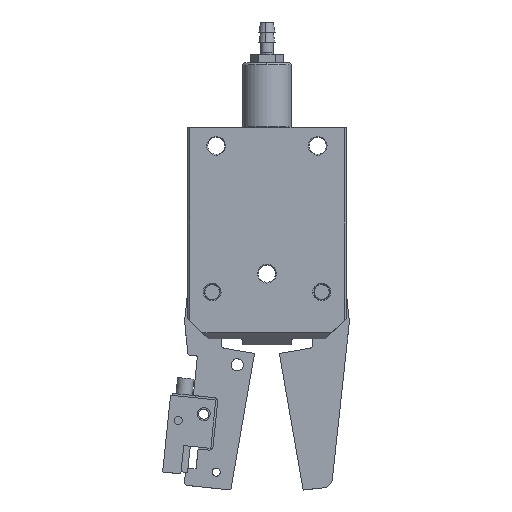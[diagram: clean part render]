
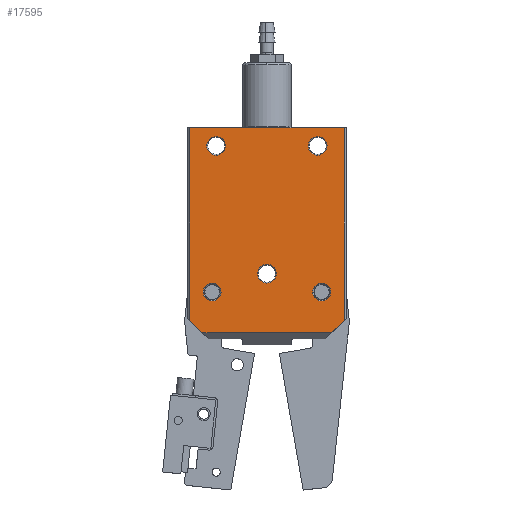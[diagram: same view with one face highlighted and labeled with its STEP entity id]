
A CAD part, top view. The second image highlights one B-rep face of the part: STEP entity #17595.
In plain terms, the highlighted planar face has unit normal (0, 0, 1).
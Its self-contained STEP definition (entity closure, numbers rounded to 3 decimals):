
#79 = FACE_BOUND ( 'NONE', #208, .T. ) ;
#94 = EDGE_CURVE ( 'NONE', #7983, #10625, #7030, .T. ) ;
#107 = DIRECTION ( 'NONE',  ( 0., -1., 0. ) ) ;
#208 = EDGE_LOOP ( 'NONE', ( #9707, #18822 ) ) ;
#428 = AXIS2_PLACEMENT_3D ( 'NONE', #18297, #9151, #107 ) ;
#478 = AXIS2_PLACEMENT_3D ( 'NONE', #4205, #14808, #5691 ) ;
#727 = ORIENTED_EDGE ( 'NONE', *, *, #2438, .F. ) ;
#757 = DIRECTION ( 'NONE',  ( 0., 0., -1. ) ) ;
#763 = VERTEX_POINT ( 'NONE', #10096 ) ;
#899 = DIRECTION ( 'NONE',  ( 0., 0., -1. ) ) ;
#1382 = EDGE_CURVE ( 'NONE', #19529, #16884, #8173, .T. ) ;
#1498 = DIRECTION ( 'NONE',  ( 0., 0., -1. ) ) ;
#1542 = CARTESIAN_POINT ( 'NONE',  ( -7.518, -30.872, 76.9 ) ) ;
#1721 = ORIENTED_EDGE ( 'NONE', *, *, #12504, .T. ) ;
#1796 = LINE ( 'NONE', #9381, #17454 ) ;
#1952 = CARTESIAN_POINT ( 'NONE',  ( -21.018, -20.872, 76.9 ) ) ;
#2164 = CIRCLE ( 'NONE', #6188, 2.2 ) ;
#2185 = DIRECTION ( 'NONE',  ( 1., 0., 0. ) ) ;
#2256 = CARTESIAN_POINT ( 'NONE',  ( -20.018, 17.428, 76.9 ) ) ;
#2328 = CARTESIAN_POINT ( 'NONE',  ( 5.982, -20.872, 76.9 ) ) ;
#2438 = EDGE_CURVE ( 'NONE', #4233, #4907, #12723, .T. ) ;
#2505 = AXIS2_PLACEMENT_3D ( 'NONE', #4483, #15112, #5986 ) ;
#2612 = CARTESIAN_POINT ( 'NONE',  ( 4.982, 15.128, 76.9 ) ) ;
#2768 = LINE ( 'NONE', #3754, #6301 ) ;
#2859 = AXIS2_PLACEMENT_3D ( 'NONE', #10564, #1498, #12127 ) ;
#2988 = CARTESIAN_POINT ( 'NONE',  ( -7.518, -14.072, 76.9 ) ) ;
#3097 = DIRECTION ( 'NONE',  ( 0., 0., -1. ) ) ;
#3180 = ORIENTED_EDGE ( 'NONE', *, *, #15090, .T. ) ;
#3248 = CIRCLE ( 'NONE', #478, 2.3 ) ;
#3494 = DIRECTION ( 'NONE',  ( 0., -1., 0. ) ) ;
#3577 = CIRCLE ( 'NONE', #2505, 2.3 ) ;
#3648 = FACE_BOUND ( 'NONE', #12528, .T. ) ;
#3702 = CARTESIAN_POINT ( 'NONE',  ( 8.482, -30.872, 76.9 ) ) ;
#3754 = CARTESIAN_POINT ( 'NONE',  ( -26.518, -5.622, 76.9 ) ) ;
#3867 = DIRECTION ( 'NONE',  ( 0., -1., 0. ) ) ;
#4205 = CARTESIAN_POINT ( 'NONE',  ( 4.982, 15.128, 76.9 ) ) ;
#4233 = VERTEX_POINT ( 'NONE', #17228 ) ;
#4412 = VECTOR ( 'NONE', #10799, 1000. ) ;
#4483 = CARTESIAN_POINT ( 'NONE',  ( -7.518, -16.372, 76.9 ) ) ;
#4608 = ORIENTED_EDGE ( 'NONE', *, *, #6196, .T. ) ;
#4907 = VERTEX_POINT ( 'NONE', #2256 ) ;
#5246 = ORIENTED_EDGE ( 'NONE', *, *, #8940, .F. ) ;
#5254 = DIRECTION ( 'NONE',  ( 0., -1., 0. ) ) ;
#5275 = DIRECTION ( 'NONE',  ( 0.707, 0.707, 0. ) ) ;
#5691 = DIRECTION ( 'NONE',  ( 0., -1., 0. ) ) ;
#5706 = VERTEX_POINT ( 'NONE', #11151 ) ;
#5986 = DIRECTION ( 'NONE',  ( 0., -1., 0. ) ) ;
#6188 = AXIS2_PLACEMENT_3D ( 'NONE', #2328, #12931, #3867 ) ;
#6196 = EDGE_CURVE ( 'NONE', #5706, #14249, #1796, .T. ) ;
#6301 = VECTOR ( 'NONE', #5254, 1000. ) ;
#6351 = EDGE_LOOP ( 'NONE', ( #727, #5246 ) ) ;
#6431 = EDGE_CURVE ( 'NONE', #9030, #16514, #6957, .T. ) ;
#6572 = EDGE_CURVE ( 'NONE', #10625, #5706, #14084, .T. ) ;
#6594 = EDGE_CURVE ( 'NONE', #17233, #14234, #19561, .T. ) ;
#6957 = CIRCLE ( 'NONE', #2859, 2.3 ) ;
#7030 = LINE ( 'NONE', #1542, #11076 ) ;
#7168 = EDGE_LOOP ( 'NONE', ( #10737, #11220, #7173, #11707, #4608, #9064 ) ) ;
#7173 = ORIENTED_EDGE ( 'NONE', *, *, #94, .T. ) ;
#7185 = AXIS2_PLACEMENT_3D ( 'NONE', #1952, #12556, #3494 ) ;
#7497 = CARTESIAN_POINT ( 'NONE',  ( -23.518, -30.872, 76.9 ) ) ;
#7674 = FACE_BOUND ( 'NONE', #13827, .T. ) ;
#7865 = AXIS2_PLACEMENT_3D ( 'NONE', #9950, #899, #11513 ) ;
#7983 = VERTEX_POINT ( 'NONE', #7497 ) ;
#7999 = DIRECTION ( 'NONE',  ( 0., 0., 1. ) ) ;
#8173 = CIRCLE ( 'NONE', #15703, 2.3 ) ;
#8334 = VERTEX_POINT ( 'NONE', #10496 ) ;
#8458 = DIRECTION ( 'NONE',  ( 0., 0., 1. ) ) ;
#8940 = EDGE_CURVE ( 'NONE', #4907, #4233, #17810, .T. ) ;
#9030 = VERTEX_POINT ( 'NONE', #15375 ) ;
#9064 = ORIENTED_EDGE ( 'NONE', *, *, #13459, .T. ) ;
#9151 = DIRECTION ( 'NONE',  ( 0., 0., 1. ) ) ;
#9381 = CARTESIAN_POINT ( 'NONE',  ( 11.482, -5.622, 76.9 ) ) ;
#9707 = ORIENTED_EDGE ( 'NONE', *, *, #10984, .T. ) ;
#9806 = CARTESIAN_POINT ( 'NONE',  ( 5.982, -20.872, 76.9 ) ) ;
#9950 = CARTESIAN_POINT ( 'NONE',  ( -21.018, -20.872, 76.9 ) ) ;
#9996 = VECTOR ( 'NONE', #5275, 1000. ) ;
#10059 = CARTESIAN_POINT ( 'NONE',  ( -21.018, -18.672, 76.9 ) ) ;
#10096 = CARTESIAN_POINT ( 'NONE',  ( -21.018, -23.072, 76.9 ) ) ;
#10496 = CARTESIAN_POINT ( 'NONE',  ( -26.518, 19.628, 76.9 ) ) ;
#10500 = CARTESIAN_POINT ( 'NONE',  ( 11.482, 19.628, 76.9 ) ) ;
#10564 = CARTESIAN_POINT ( 'NONE',  ( -7.518, -16.372, 76.9 ) ) ;
#10602 = CARTESIAN_POINT ( 'NONE',  ( 4.982, 12.828, 76.9 ) ) ;
#10625 = VERTEX_POINT ( 'NONE', #15445 ) ;
#10675 = CARTESIAN_POINT ( 'NONE',  ( -7.518, 19.628, 76.9 ) ) ;
#10737 = ORIENTED_EDGE ( 'NONE', *, *, #10864, .T. ) ;
#10799 = DIRECTION ( 'NONE',  ( 0.707, -0.707, 0. ) ) ;
#10864 = EDGE_CURVE ( 'NONE', #8334, #15961, #2768, .T. ) ;
#10923 = VERTEX_POINT ( 'NONE', #10059 ) ;
#10974 = PLANE ( 'NONE',  #10981 ) ;
#10981 = AXIS2_PLACEMENT_3D ( 'NONE', #17106, #7999, #18653 ) ;
#10984 = EDGE_CURVE ( 'NONE', #16884, #19529, #3248, .T. ) ;
#11076 = VECTOR ( 'NONE', #2185, 1000. ) ;
#11151 = CARTESIAN_POINT ( 'NONE',  ( 11.482, -27.872, 76.9 ) ) ;
#11220 = ORIENTED_EDGE ( 'NONE', *, *, #16964, .T. ) ;
#11366 = DIRECTION ( 'NONE',  ( 0., -1., 0. ) ) ;
#11513 = DIRECTION ( 'NONE',  ( 0., -1., 0. ) ) ;
#11663 = CARTESIAN_POINT ( 'NONE',  ( 5.982, -18.672, 76.9 ) ) ;
#11702 = FACE_BOUND ( 'NONE', #16798, .T. ) ;
#11707 = ORIENTED_EDGE ( 'NONE', *, *, #6572, .T. ) ;
#11916 = ORIENTED_EDGE ( 'NONE', *, *, #14851, .T. ) ;
#12127 = DIRECTION ( 'NONE',  ( 0., -1., 0. ) ) ;
#12235 = DIRECTION ( 'NONE',  ( -1., 0., 0. ) ) ;
#12290 = CARTESIAN_POINT ( 'NONE',  ( -26.518, -27.872, 76.9 ) ) ;
#12474 = LINE ( 'NONE', #12290, #4412 ) ;
#12504 = EDGE_CURVE ( 'NONE', #763, #10923, #16250, .T. ) ;
#12528 = EDGE_LOOP ( 'NONE', ( #1721, #3180 ) ) ;
#12556 = DIRECTION ( 'NONE',  ( 0., 0., -1. ) ) ;
#12614 = ORIENTED_EDGE ( 'NONE', *, *, #6594, .T. ) ;
#12723 = CIRCLE ( 'NONE', #12823, 2.3 ) ;
#12823 = AXIS2_PLACEMENT_3D ( 'NONE', #17584, #8458, #19131 ) ;
#12931 = DIRECTION ( 'NONE',  ( 0., 0., -1. ) ) ;
#13301 = VECTOR ( 'NONE', #12235, 1000. ) ;
#13459 = EDGE_CURVE ( 'NONE', #14249, #8334, #13788, .T. ) ;
#13607 = DIRECTION ( 'NONE',  ( 0., -1., 0. ) ) ;
#13788 = LINE ( 'NONE', #10675, #13301 ) ;
#13827 = EDGE_LOOP ( 'NONE', ( #18116, #11916 ) ) ;
#14002 = DIRECTION ( 'NONE',  ( 0., 1., 0. ) ) ;
#14084 = LINE ( 'NONE', #3702, #9996 ) ;
#14234 = VERTEX_POINT ( 'NONE', #16592 ) ;
#14249 = VERTEX_POINT ( 'NONE', #10500 ) ;
#14666 = AXIS2_PLACEMENT_3D ( 'NONE', #9806, #757, #11366 ) ;
#14808 = DIRECTION ( 'NONE',  ( 0., 0., -1. ) ) ;
#14851 = EDGE_CURVE ( 'NONE', #16514, #9030, #3577, .T. ) ;
#15070 = CARTESIAN_POINT ( 'NONE',  ( -26.518, -27.872, 76.9 ) ) ;
#15090 = EDGE_CURVE ( 'NONE', #10923, #763, #19701, .T. ) ;
#15112 = DIRECTION ( 'NONE',  ( 0., 0., -1. ) ) ;
#15375 = CARTESIAN_POINT ( 'NONE',  ( -7.518, -18.672, 76.9 ) ) ;
#15445 = CARTESIAN_POINT ( 'NONE',  ( 8.482, -30.872, 76.9 ) ) ;
#15703 = AXIS2_PLACEMENT_3D ( 'NONE', #2612, #3097, #13607 ) ;
#15754 = FACE_BOUND ( 'NONE', #6351, .T. ) ;
#15961 = VERTEX_POINT ( 'NONE', #15070 ) ;
#16250 = CIRCLE ( 'NONE', #7865, 2.2 ) ;
#16514 = VERTEX_POINT ( 'NONE', #2988 ) ;
#16592 = CARTESIAN_POINT ( 'NONE',  ( 5.982, -23.072, 76.9 ) ) ;
#16798 = EDGE_LOOP ( 'NONE', ( #19283, #12614 ) ) ;
#16884 = VERTEX_POINT ( 'NONE', #10602 ) ;
#16964 = EDGE_CURVE ( 'NONE', #15961, #7983, #12474, .T. ) ;
#16995 = CARTESIAN_POINT ( 'NONE',  ( 4.982, 17.428, 76.9 ) ) ;
#17106 = CARTESIAN_POINT ( 'NONE',  ( -26.518, -30.872, 76.9 ) ) ;
#17228 = CARTESIAN_POINT ( 'NONE',  ( -20.018, 12.828, 76.9 ) ) ;
#17233 = VERTEX_POINT ( 'NONE', #11663 ) ;
#17454 = VECTOR ( 'NONE', #14002, 1000. ) ;
#17584 = CARTESIAN_POINT ( 'NONE',  ( -20.018, 15.128, 76.9 ) ) ;
#17595 = ADVANCED_FACE ( 'NONE', ( #15754, #79, #11702, #7674, #3648, #19313 ), #10974, .T. ) ;
#17810 = CIRCLE ( 'NONE', #428, 2.3 ) ;
#18116 = ORIENTED_EDGE ( 'NONE', *, *, #6431, .T. ) ;
#18297 = CARTESIAN_POINT ( 'NONE',  ( -20.018, 15.128, 76.9 ) ) ;
#18653 = DIRECTION ( 'NONE',  ( 1., 0., 0. ) ) ;
#18822 = ORIENTED_EDGE ( 'NONE', *, *, #1382, .T. ) ;
#19084 = EDGE_CURVE ( 'NONE', #14234, #17233, #2164, .T. ) ;
#19131 = DIRECTION ( 'NONE',  ( 0., -1., 0. ) ) ;
#19283 = ORIENTED_EDGE ( 'NONE', *, *, #19084, .T. ) ;
#19313 = FACE_OUTER_BOUND ( 'NONE', #7168, .T. ) ;
#19529 = VERTEX_POINT ( 'NONE', #16995 ) ;
#19561 = CIRCLE ( 'NONE', #14666, 2.2 ) ;
#19701 = CIRCLE ( 'NONE', #7185, 2.2 ) ;
